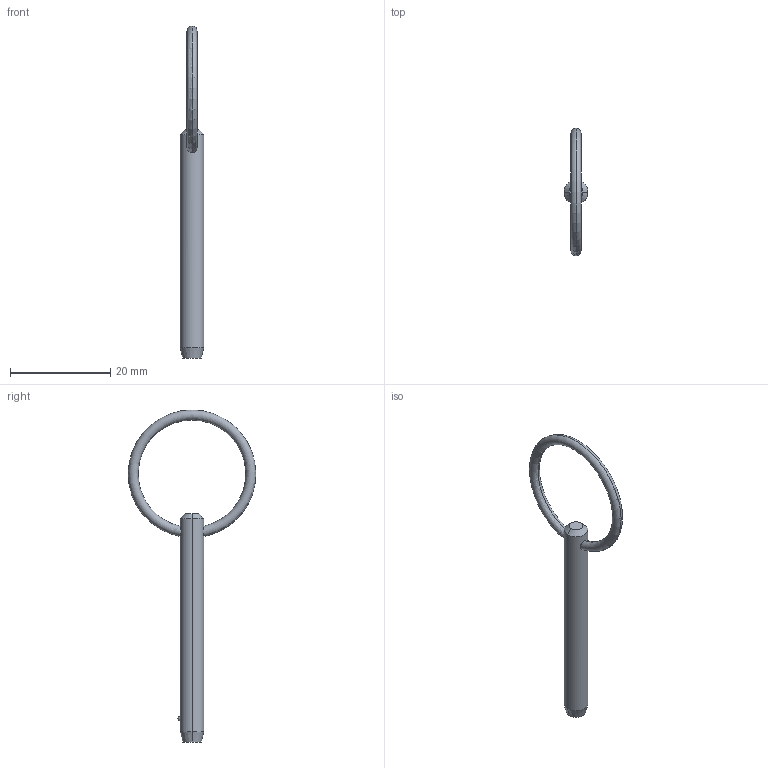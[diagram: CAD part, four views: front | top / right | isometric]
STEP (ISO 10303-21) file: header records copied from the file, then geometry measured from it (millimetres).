
FILE_DESCRIPTION (( 'STEP AP203' ), '1' );
FILE_NAME ('P1250.018-140.step', '2019-07-29T19:31:39', ( '' ), ( '' ), 'SwSTEP 2.0', 'SolidWorks 2017', '' );
FILE_SCHEMA (( 'CONFIG_CONTROL_DESIGN' ));
Length unit declared in the file: millimetre
Products named in the file (1): P1250.018-140
Bounding box: 4.76 x 25.4 x 66.08 mm (x, y, z)
Volume: 1010.8 mm3; surface area: 1122.4 mm2
Topology: 1 solids, 1 shells, 12 faces, 28 edges, 17 vertices
Faces by surface type: cone 4, torus 2, sphere 2, cylinder 2, plane 2
Entity records: 471 total; most frequent: CARTESIAN_POINT 138, DIRECTION 56, ORIENTED_EDGE 48, AXIS2_PLACEMENT_3D 25, EDGE_CURVE 24, VERTEX_POINT 15, EDGE_LOOP 15, CIRCLE 12
